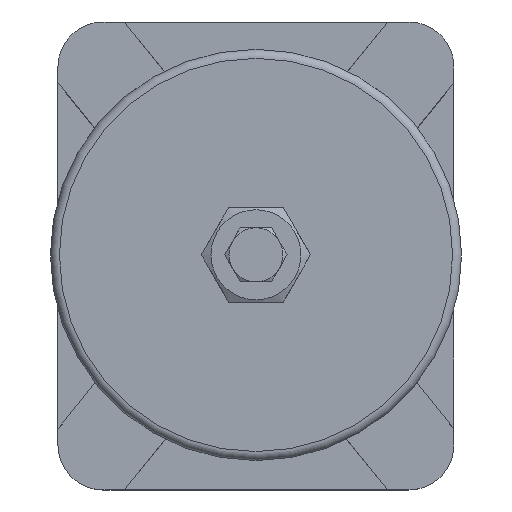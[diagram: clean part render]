
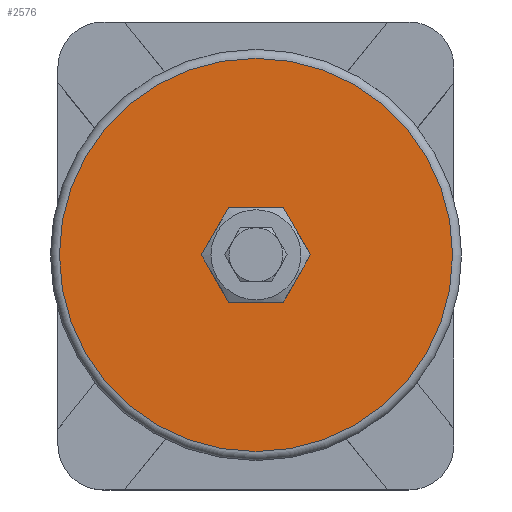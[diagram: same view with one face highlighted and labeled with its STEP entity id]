
A CAD part, top view. The second image highlights one B-rep face of the part: STEP entity #2576.
In plain terms, the highlighted planar face has unit normal (0, 0, 1).
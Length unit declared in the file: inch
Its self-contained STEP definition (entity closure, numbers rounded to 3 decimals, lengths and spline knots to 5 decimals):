
#133=FACE_BOUND('',#491,.T.);
#185=CIRCLE('',#2758,2.73119);
#186=CIRCLE('',#2760,0.38281);
#332=FACE_OUTER_BOUND('',#490,.T.);
#490=EDGE_LOOP('',(#1707));
#491=EDGE_LOOP('',(#1708));
#1048=VERTEX_POINT('',#3756);
#1049=VERTEX_POINT('',#3759);
#1315=EDGE_CURVE('',#1048,#1048,#185,.T.);
#1316=EDGE_CURVE('',#1049,#1049,#186,.T.);
#1707=ORIENTED_EDGE('',*,*,#1315,.F.);
#1708=ORIENTED_EDGE('',*,*,#1316,.F.);
#2319=PLANE('',#2759);
#2576=ADVANCED_FACE('',(#332,#133),#2319,.T.);
#2758=AXIS2_PLACEMENT_3D('',#3757,#3075,#3076);
#2759=AXIS2_PLACEMENT_3D('',#3758,#3077,#3078);
#2760=AXIS2_PLACEMENT_3D('',#3760,#3079,#3080);
#3075=DIRECTION('center_axis',(0.,0.,
-1.));
#3076=DIRECTION('ref_axis',(-1.,0.,0.));
#3077=DIRECTION('center_axis',(0.,0.,
1.));
#3078=DIRECTION('ref_axis',(1.,0.,0.));
#3079=DIRECTION('center_axis',(0.,0.,
1.));
#3080=DIRECTION('ref_axis',(1.,0.,0.));
#3756=CARTESIAN_POINT('',(2.73188,0.,8.625));
#3757=CARTESIAN_POINT('Origin',(0.00069,0.,
8.625));
#3758=CARTESIAN_POINT('Origin',(1.6296,0.,8.625));
#3759=CARTESIAN_POINT('',(0.3835,0.,8.625));
#3760=CARTESIAN_POINT('Origin',(0.00069,0.,
8.625));
